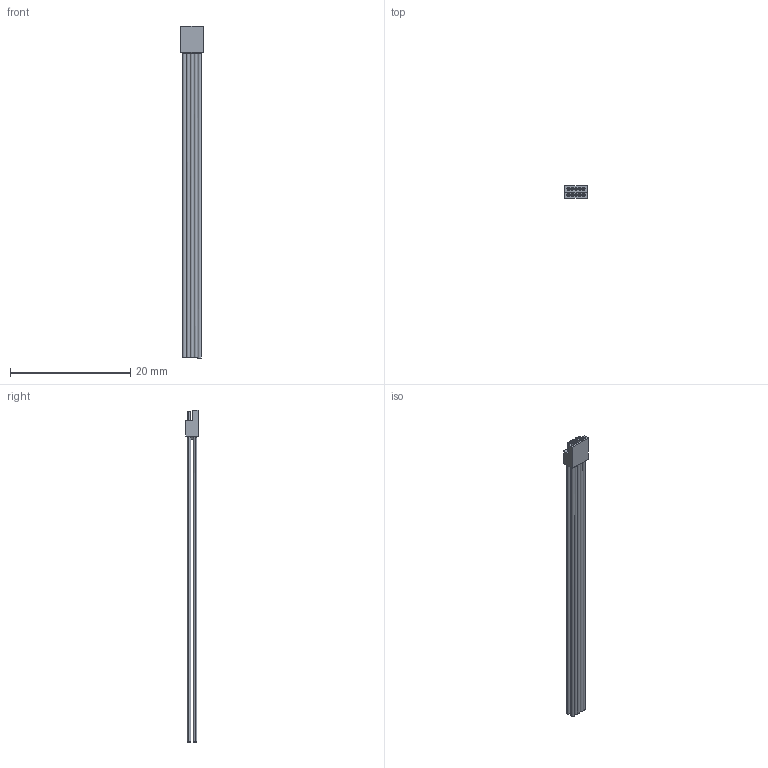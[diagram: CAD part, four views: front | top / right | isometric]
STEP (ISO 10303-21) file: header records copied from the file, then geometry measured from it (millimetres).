
FILE_DESCRIPTION (( 'STEP AP214' ), '1' );
FILE_NAME ('A79616-001 REV D.STEP', '2015-11-06T14:51:35', ( '' ), ( '' ), 'SwSTEP 2.0', 'SolidWorks 2015', '' );
FILE_SCHEMA (( 'AUTOMOTIVE_DESIGN' ));
Length unit declared in the file: inch
Products named in the file (1): A79616-001
Bounding box: 3.81 x 2.03 x 55.12 mm (x, y, z)
Volume: 171.2 mm3; surface area: 1125 mm2
Topology: 1 solids, 6 shells, 159 faces, 356 edges, 233 vertices
Faces by surface type: cylinder 94, plane 53, bspline 12
Entity records: 4798 total; most frequent: CARTESIAN_POINT 1255, DIRECTION 728, ORIENTED_EDGE 704, EDGE_CURVE 352, AXIS2_PLACEMENT_3D 308, VERTEX_POINT 233, EDGE_LOOP 197, CIRCLE 160
